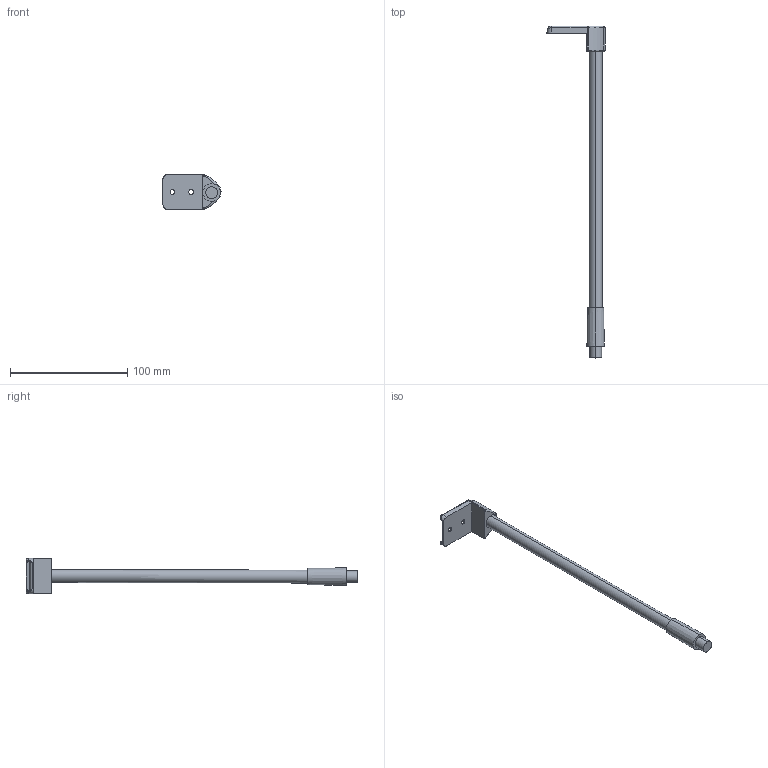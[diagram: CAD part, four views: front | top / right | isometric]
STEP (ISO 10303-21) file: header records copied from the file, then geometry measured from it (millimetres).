
FILE_DESCRIPTION (( 'STEP AP214' ), '1' );
FILE_NAME ('_2S_RUL_7107_NL270_RE.step', '2010-06-29T14:08:24', ( 'grass' ), ( '' ), 'SwSTEP 2.0', 'SolidWorks 2009', '' );
FILE_SCHEMA (( 'AUTOMOTIVE_DESIGN' ));
Length unit declared in the file: millimetre
Products named in the file (1): _2S_RUL_7107_NL270_RE
Bounding box: 49.5 x 283 x 30 mm (x, y, z)
Volume: 37136.7 mm3; surface area: 14391.7 mm2
Topology: 1 solids, 1 shells, 89 faces, 203 edges, 118 vertices
Faces by surface type: cylinder 32, plane 17, torus 16, bspline 16, cone 6, sphere 2
Entity records: 4566 total; most frequent: CARTESIAN_POINT 2608, DIRECTION 411, ORIENTED_EDGE 402, EDGE_CURVE 201, AXIS2_PLACEMENT_3D 172, VERTEX_POINT 118, CIRCLE 98, EDGE_LOOP 97
